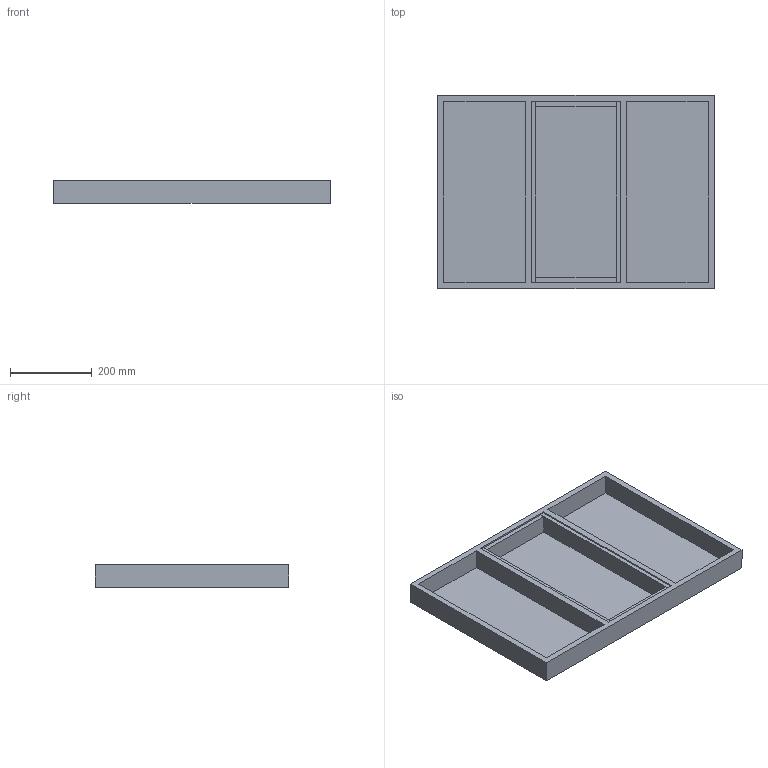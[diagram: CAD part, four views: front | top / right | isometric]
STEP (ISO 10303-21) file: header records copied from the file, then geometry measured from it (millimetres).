
FILE_DESCRIPTION (( 'STEP AP214' ), '1' );
FILE_NAME ('Flexline Holzeinsatz KAB800-1200.STEP', '2010-10-25T12:44:27', ( 'grass' ), ( '' ), 'SwSTEP 2.0', 'SolidWorks 2010', '' );
FILE_SCHEMA (( 'AUTOMOTIVE_DESIGN' ));
Length unit declared in the file: millimetre
Products named in the file (1): Flexline Holzeinsatz KAB800-1200
Bounding box: 676 x 472 x 54 mm (x, y, z)
Volume: 4232144 mm3; surface area: 952424 mm2
Topology: 1 solids, 1 shells, 29 faces, 72 edges, 48 vertices
Faces by surface type: plane 29
Entity records: 880 total; most frequent: CARTESIAN_POINT 150, ORIENTED_EDGE 144, DIRECTION 132, EDGE_CURVE 72, LINE 72, VECTOR 72, VERTEX_POINT 48, EDGE_LOOP 32
